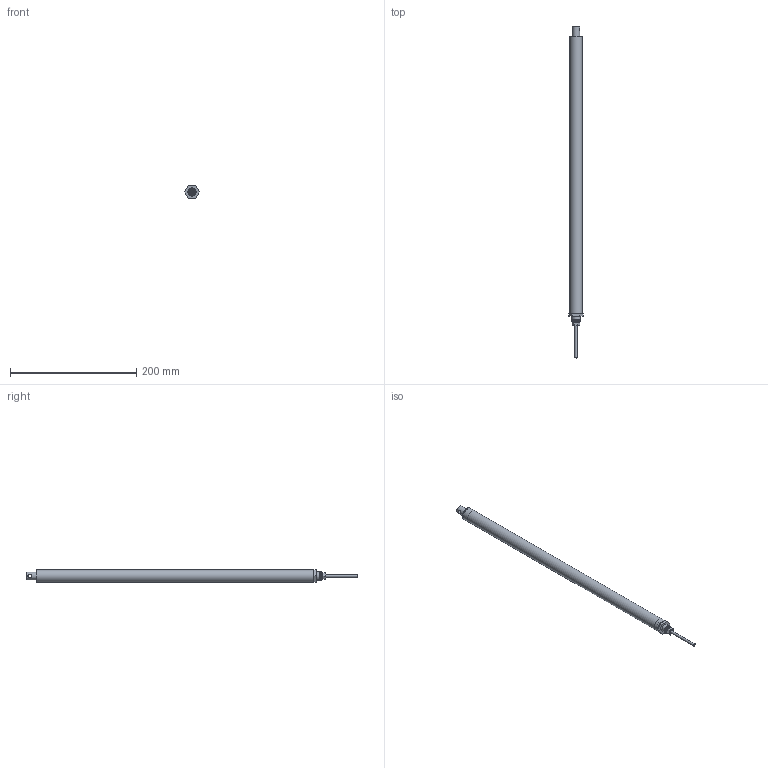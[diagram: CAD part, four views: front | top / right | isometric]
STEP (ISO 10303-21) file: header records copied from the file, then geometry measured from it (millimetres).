
FILE_DESCRIPTION(/* description */ ('Unknown'),/* implementation_level */ '2;1');
FILE_NAME(/* name */ '109.50164 Zylinder CI 1840_eingefahren',/* time_stamp */ '2018-04-27T13:13:40+02:00',/* author */ ('Unknown'),/* organization */ ('Unknown'),/* preprocessor_version */ 'ST-DEVELOPER v16.7',/* originating_system */ 'DEX',/* authorisation */ $);
FILE_SCHEMA (('AUTOMOTIVE_DESIGN {1 0 10303 214 3 1 1}'));
Length unit declared in the file: millimetre
Products named in the file (9): 109.50164; 121.50004; 142.00021; 125.00021; 115.00008_oa_0; 125.00061; 120.00004; 122.00012; 113.00002_70mm
Assembly tree (8 placements, depth 2):
  109.50164
    121.50004
    142.00021
    125.00021
    115.00008_oa_0
    125.00061
    120.00004
    122.00012
    113.00002_70mm
Bounding box: 23.09 x 526 x 20 mm (x, y, z)
Volume: 81985.1 mm3; surface area: 75184.7 mm2
Topology: 7 solids, 7 shells, 91 faces, 181 edges, 115 vertices
Faces by surface type: plane 37, cylinder 27, cone 22, torus 4, sphere 1
Full cylindrical faces by diameter (mm): 2.2 x1, 3.5 x1, 4 x1, 4.1 x1, 4.2 x1, 6 x1, 6.917 x2, 7.763 x2, 8 x3, 8.1 x3, 12 x2, 12.5 x1, 13 x2, 14.4 x1, 17.9 x2, 18 x2, 20 x1
Entity records: 2689 total; most frequent: CARTESIAN_POINT 403, DIRECTION 384, ORIENTED_EDGE 248, AXIS2_PLACEMENT_3D 174, FACE_BOUND 163, EDGE_LOOP 162, EDGE_CURVE 124, VERTEX_POINT 107
